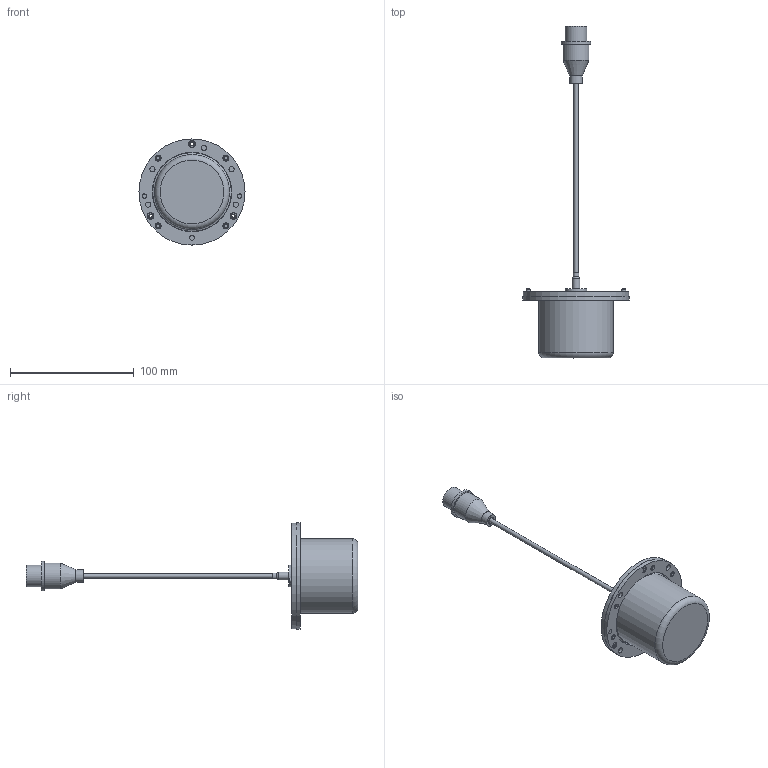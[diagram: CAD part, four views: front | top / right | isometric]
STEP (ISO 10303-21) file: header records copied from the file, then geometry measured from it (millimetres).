
FILE_DESCRIPTION (( 'STEP AP203' ), '1' );
FILE_NAME ('GMU22_011-03269-00_R[115-00481-10]_rev1.STEP', '2017-08-30T19:08:41', ( 'Garmin' ), ( 'Garmin' ), 'SwSTEP 2.0', 'SolidWorks 2016', '' );
FILE_SCHEMA (( 'CONFIG_CONTROL_DESIGN' ));
Length unit declared in the file: inch
Products named in the file (1): GMU22_011-03269-00_R[115-00481-10]_rev1
Bounding box: 85.59 x 267.69 x 85.59 mm (x, y, z)
Volume: 180135.8 mm3; surface area: 35826.8 mm2
Topology: 2 solids, 2 shells, 1068 faces, 2752 edges, 1829 vertices
Faces by surface type: plane 634, bspline 304, cylinder 96, cone 30, torus 4
Full cylindrical faces by diameter (mm): 2.705 x3, 2.845 x4, 3.175 x2, 3.226 x1, 3.506 x2, 3.556 x5, 3.658 x2, 3.81 x1, 4.166 x6, 4.318 x3, 4.369 x7, 4.699 x4, 4.826 x1, 4.877 x9, 5.385 x9, 5.41 x3, 5.429 x4, 5.842 x2, 6.096 x2, 10.16 x1, 16.891 x1, 17.475 x1, 17.526 x1, 20.955 x1, 23.749 x1, 60.325 x1, 64.008 x1
Entity records: 44194 total; most frequent: CARTESIAN_POINT 20624, ORIENTED_EDGE 5226, DIRECTION 3679, EDGE_CURVE 2613, VERTEX_POINT 1802, VECTOR 1717, LINE 1717, EDGE_LOOP 1359
